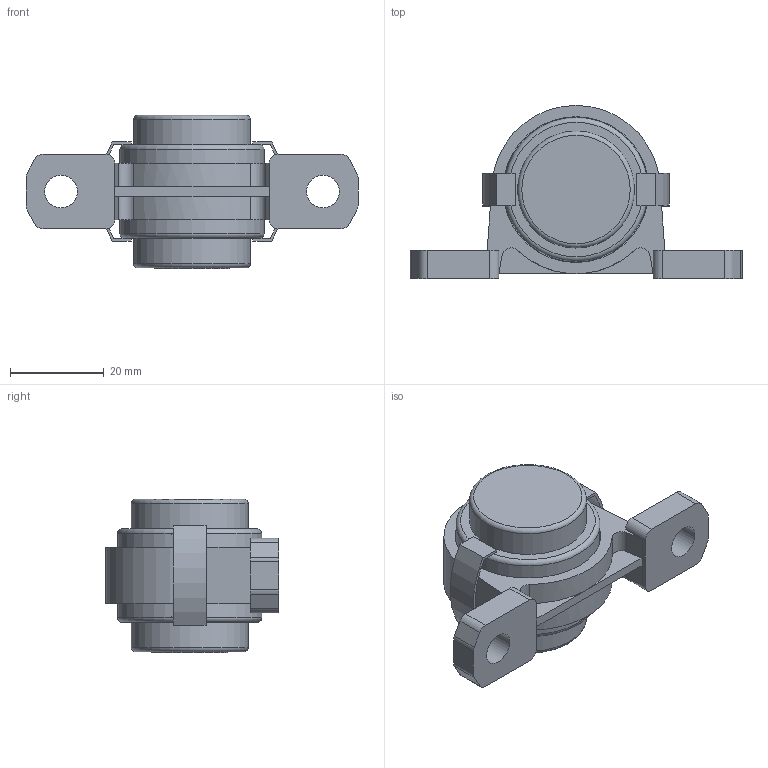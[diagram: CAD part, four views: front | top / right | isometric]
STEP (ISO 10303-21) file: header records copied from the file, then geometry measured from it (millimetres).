
FILE_DESCRIPTION((''),'2;1');
FILE_NAME('\\Ts-tgl068\j-cad-d-base\00.3DCADデータ作成フォルダ\11.エコシリーズ\MUSP000\MUSP001E.stp','2014-11-12T09:22:57',('btec_1106_2'),(''),'Autodesk Inventor 2012','Autodesk Inventor 2012','');
FILE_SCHEMA(('AUTOMOTIVE_DESIGN { 1 0 10303 214 1 1 1 1 }'));
Length unit declared in the file: millimetre
Products named in the file (6): MUSP000C; SP001; U001; 001CPE; 1CLP; 001CP12
Assembly tree (6 placements, depth 2):
  MUSP000C
    SP001
    U001
    001CPE
    1CLP  x2
    001CP12
Bounding box: 71 x 37 x 32.8 mm (x, y, z)
Volume: 15131.6 mm3; surface area: 16314 mm2
Topology: 6 solids, 6 shells, 130 faces, 297 edges, 192 vertices
Faces by surface type: plane 72, cylinder 45, torus 8, cone 3, sphere 2
Full cylindrical faces by diameter (mm): 3.5 x1, 4 x1, 7 x2, 12 x2, 16.2 x2, 17.4 x1, 19 x1, 24.4 x2, 25 x2, 30.2 x2, 30.8 x2, 31.2 x2
Entity records: 3450 total; most frequent: CARTESIAN_POINT 664, DIRECTION 586, ORIENTED_EDGE 460, AXIS2_PLACEMENT_3D 230, EDGE_CURVE 230, EDGE_LOOP 180, VERTEX_POINT 168, VECTOR 126
